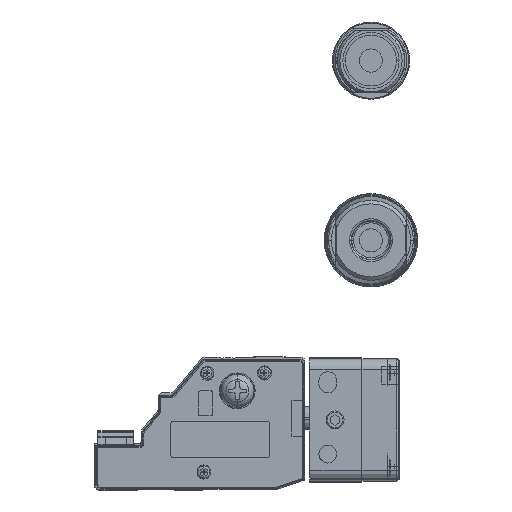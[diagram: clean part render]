
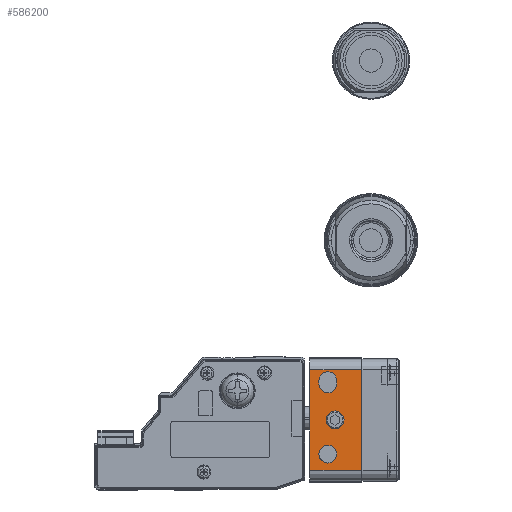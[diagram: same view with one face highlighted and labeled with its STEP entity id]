
A CAD part, left-side view. The second image highlights one B-rep face of the part: STEP entity #586200.
In plain terms, the highlighted planar face has unit normal (-1, 0, 0) as drawn and (0, 0, -1) by its records, which use the part's own axes.
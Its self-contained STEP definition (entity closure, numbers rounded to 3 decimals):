
#585150=CARTESIAN_POINT('',(-201.714,217.373,
0.));
#585160=DIRECTION('',(-0.,-0.,-1.));
#585170=DIRECTION('',(0.,-1.,0.));
#585180=AXIS2_PLACEMENT_3D('',#585150,#585160,#585170);
#585190=PLANE('',#585180);
#585200=CARTESIAN_POINT('',(-191.714,212.373,
0.));
#585210=DIRECTION('',(0.,0.,-1.));
#585220=DIRECTION('',(-1.,0.,0.));
#585230=AXIS2_PLACEMENT_3D('',#585200,#585210,#585220);
#585240=CIRCLE('',#585230,2.5);
#585250=CARTESIAN_POINT('',(-191.714,209.873,
0.));
#585260=VERTEX_POINT('',#585250);
#585270=CARTESIAN_POINT('',(-191.714,214.873,
0.));
#585280=VERTEX_POINT('',#585270);
#585290=EDGE_CURVE('',#585260,#585280,#585240,.T.);
#585300=ORIENTED_EDGE('',*,*,#585290,.F.);
#585310=CARTESIAN_POINT('',(0.,214.873,0.));
#585320=DIRECTION('',(-1.,0.,0.));
#585330=VECTOR('',#585320,1.);
#585340=LINE('',#585310,#585330);
#585350=CARTESIAN_POINT('',(-190.714,214.873,
0.));
#585360=VERTEX_POINT('',#585350);
#585370=EDGE_CURVE('',#585360,#585280,#585340,.T.);
#585380=ORIENTED_EDGE('',*,*,#585370,.T.);
#585390=CARTESIAN_POINT('',(-190.714,212.373,
0.));
#585400=DIRECTION('',(0.,0.,-1.));
#585410=DIRECTION('',(-1.,0.,0.));
#585420=AXIS2_PLACEMENT_3D('',#585390,#585400,#585410);
#585430=CIRCLE('',#585420,2.5);
#585440=CARTESIAN_POINT('',(-190.714,209.873,
0.));
#585450=VERTEX_POINT('',#585440);
#585460=EDGE_CURVE('',#585360,#585450,#585430,.T.);
#585470=ORIENTED_EDGE('',*,*,#585460,.F.);
#585480=CARTESIAN_POINT('',(0.,209.873,0.));
#585490=DIRECTION('',(1.,0.,0.));
#585500=VECTOR('',#585490,1.);
#585510=LINE('',#585480,#585500);
#585520=EDGE_CURVE('',#585260,#585450,#585510,.T.);
#585530=ORIENTED_EDGE('',*,*,#585520,.T.);
#585540=EDGE_LOOP('',(#585530,#585470,#585380,#585300));
#585550=FACE_BOUND('',#585540,.T.);
#585560=CARTESIAN_POINT('',(-171.214,212.373,
0.));
#585570=DIRECTION('',(0.,0.,-1.));
#585580=DIRECTION('',(-1.,0.,0.));
#585590=AXIS2_PLACEMENT_3D('',#585560,#585570,#585580);
#585600=CIRCLE('',#585590,2.5);
#585610=CARTESIAN_POINT('',(-173.714,212.373,
0.));
#585620=VERTEX_POINT('',#585610);
#585630=CARTESIAN_POINT('',(-168.714,212.373,
0.));
#585640=VERTEX_POINT('',#585630);
#585650=EDGE_CURVE('',#585620,#585640,#585600,.T.);
#585660=ORIENTED_EDGE('',*,*,#585650,.F.);
#585670=EDGE_CURVE('',#585640,#585620,#585600,.T.);
#585680=ORIENTED_EDGE('',*,*,#585670,.F.);
#585690=EDGE_LOOP('',(#585680,#585660));
#585700=FACE_BOUND('',#585690,.T.);
#585710=CARTESIAN_POINT('',(-180.714,210.373,
0.));
#585720=DIRECTION('',(0.,0.,-1.));
#585730=DIRECTION('',(-1.,0.,0.));
#585740=AXIS2_PLACEMENT_3D('',#585710,#585720,#585730);
#585750=CIRCLE('',#585740,2.5);
#585760=CARTESIAN_POINT('',(-183.214,210.373,
0.));
#585770=VERTEX_POINT('',#585760);
#585780=CARTESIAN_POINT('',(-178.214,210.373,
0.));
#585790=VERTEX_POINT('',#585780);
#585800=EDGE_CURVE('',#585770,#585790,#585750,.T.);
#585810=ORIENTED_EDGE('',*,*,#585800,.F.);
#585820=EDGE_CURVE('',#585790,#585770,#585750,.T.);
#585830=ORIENTED_EDGE('',*,*,#585820,.F.);
#585840=EDGE_LOOP('',(#585830,#585810));
#585850=FACE_BOUND('',#585840,.T.);
#585860=CARTESIAN_POINT('',(-166.714,-2.,0.));
#585870=DIRECTION('',(0.,1.,0.));
#585880=VECTOR('',#585870,1.);
#585890=LINE('',#585860,#585880);
#585900=CARTESIAN_POINT('',(-166.714,203.073,
0.));
#585910=VERTEX_POINT('',#585900);
#585920=CARTESIAN_POINT('',(-166.714,217.373,
0.));
#585930=VERTEX_POINT('',#585920);
#585940=EDGE_CURVE('',#585910,#585930,#585890,.T.);
#585950=ORIENTED_EDGE('',*,*,#585940,.F.);
#585960=CARTESIAN_POINT('',(0.,217.373,0.));
#585970=DIRECTION('',(-1.,0.,0.));
#585980=VECTOR('',#585970,1.);
#585990=LINE('',#585960,#585980);
#586000=CARTESIAN_POINT('',(-194.714,217.373,
0.));
#586010=VERTEX_POINT('',#586000);
#586020=EDGE_CURVE('',#585930,#586010,#585990,.T.);
#586030=ORIENTED_EDGE('',*,*,#586020,.F.);
#586040=CARTESIAN_POINT('',(-194.714,-2.,0.));
#586050=DIRECTION('',(0.,-1.,0.));
#586060=VECTOR('',#586050,1.);
#586070=LINE('',#586040,#586060);
#586080=CARTESIAN_POINT('',(-194.714,203.073,
0.));
#586090=VERTEX_POINT('',#586080);
#586100=EDGE_CURVE('',#586010,#586090,#586070,.T.);
#586110=ORIENTED_EDGE('',*,*,#586100,.F.);
#586120=CARTESIAN_POINT('',(0.,203.073,0.));
#586130=DIRECTION('',(-1.,0.,0.));
#586140=VECTOR('',#586130,1.);
#586150=LINE('',#586120,#586140);
#586160=EDGE_CURVE('',#585910,#586090,#586150,.T.);
#586170=ORIENTED_EDGE('',*,*,#586160,.T.);
#586180=EDGE_LOOP('',(#586170,#586110,#586030,#585950));
#586190=FACE_OUTER_BOUND('',#586180,.T.);
#586200=ADVANCED_FACE('',(#585550,#585700,#585850,#586190),#585190,.T.);
